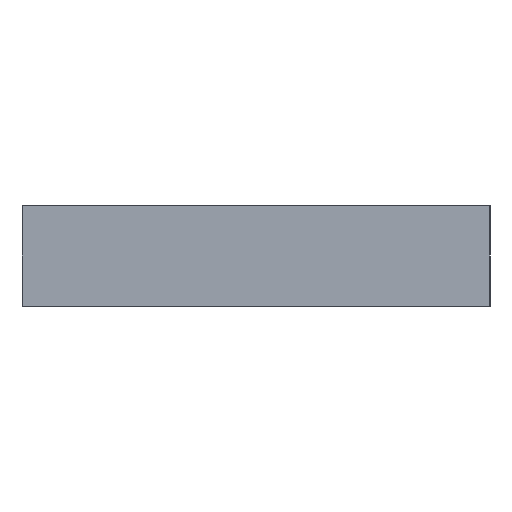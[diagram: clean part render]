
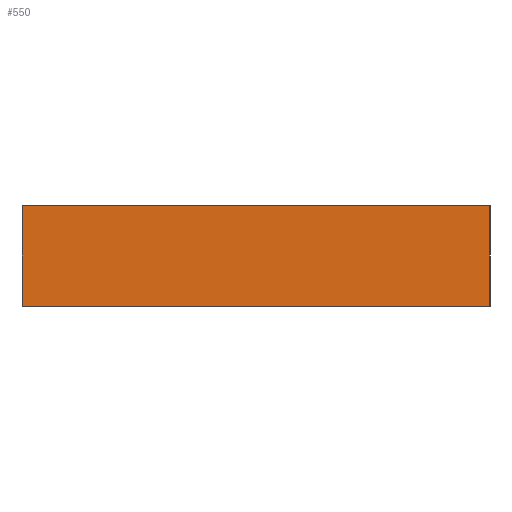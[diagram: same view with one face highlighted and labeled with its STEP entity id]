
A CAD part, front view. The second image highlights one B-rep face of the part: STEP entity #550.
In plain terms, the highlighted planar face has unit normal (0, -1, 0).
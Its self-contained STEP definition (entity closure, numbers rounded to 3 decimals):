
#13 = CARTESIAN_POINT ( 'NONE',  ( 0., -358.5, 3. ) ) ;
#24 = EDGE_CURVE ( 'NONE', #446, #704, #659, .T. ) ;
#32 = CARTESIAN_POINT ( 'NONE',  ( 0., -358.5, 0. ) ) ;
#33 = AXIS2_PLACEMENT_3D ( 'NONE', #13, #187, #201 ) ;
#39 = CARTESIAN_POINT ( 'NONE',  ( -7., -358.5, 3. ) ) ;
#61 = CARTESIAN_POINT ( 'NONE',  ( 7., -358.5, 0. ) ) ;
#75 = DIRECTION ( 'NONE',  ( 0., 0., -1. ) ) ;
#98 = VERTEX_POINT ( 'NONE', #643 ) ;
#117 = PLANE ( 'NONE',  #33 ) ;
#129 = VECTOR ( 'NONE', #420, 1000. ) ;
#144 = EDGE_CURVE ( 'NONE', #98, #704, #567, .T. ) ;
#164 = CARTESIAN_POINT ( 'NONE',  ( 0., -358.5, 3. ) ) ;
#176 = ORIENTED_EDGE ( 'NONE', *, *, #24, .T. ) ;
#187 = DIRECTION ( 'NONE',  ( 0., 1., 0. ) ) ;
#195 = LINE ( 'NONE', #164, #345 ) ;
#201 = DIRECTION ( 'NONE',  ( 0., 0., 1. ) ) ;
#231 = DIRECTION ( 'NONE',  ( 1., 0., 0. ) ) ;
#261 = ORIENTED_EDGE ( 'NONE', *, *, #270, .F. ) ;
#265 = CARTESIAN_POINT ( 'NONE',  ( 7., -358.5, 3. ) ) ;
#270 = EDGE_CURVE ( 'NONE', #339, #98, #195, .T. ) ;
#315 = CARTESIAN_POINT ( 'NONE',  ( -7., -358.5, 0. ) ) ;
#339 = VERTEX_POINT ( 'NONE', #39 ) ;
#345 = VECTOR ( 'NONE', #231, 1000. ) ;
#420 = DIRECTION ( 'NONE',  ( 0., 0., -1. ) ) ;
#446 = VERTEX_POINT ( 'NONE', #315 ) ;
#483 = LINE ( 'NONE', #682, #657 ) ;
#505 = EDGE_CURVE ( 'NONE', #339, #446, #483, .T. ) ;
#550 = ADVANCED_FACE ( 'NONE', ( #566 ), #117, .F. ) ;
#566 = FACE_OUTER_BOUND ( 'NONE', #710, .T. ) ;
#567 = LINE ( 'NONE', #265, #129 ) ;
#609 = ORIENTED_EDGE ( 'NONE', *, *, #505, .T. ) ;
#639 = VECTOR ( 'NONE', #654, 1000. ) ;
#642 = ORIENTED_EDGE ( 'NONE', *, *, #144, .F. ) ;
#643 = CARTESIAN_POINT ( 'NONE',  ( 7., -358.5, 3. ) ) ;
#654 = DIRECTION ( 'NONE',  ( 1., 0., 0. ) ) ;
#657 = VECTOR ( 'NONE', #75, 1000. ) ;
#659 = LINE ( 'NONE', #32, #639 ) ;
#682 = CARTESIAN_POINT ( 'NONE',  ( -7., -358.5, 3. ) ) ;
#704 = VERTEX_POINT ( 'NONE', #61 ) ;
#710 = EDGE_LOOP ( 'NONE', ( #176, #642, #261, #609 ) ) ;
